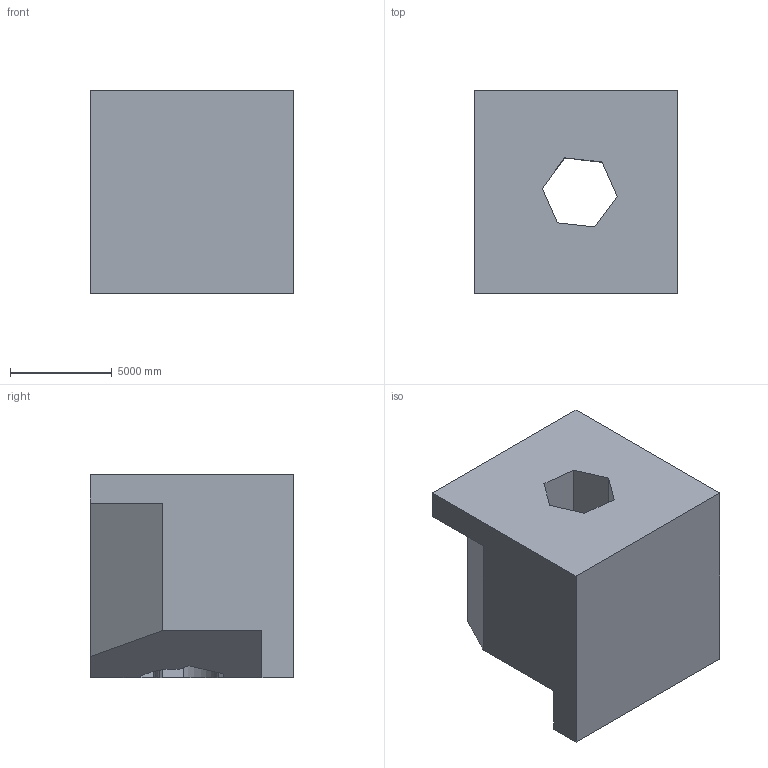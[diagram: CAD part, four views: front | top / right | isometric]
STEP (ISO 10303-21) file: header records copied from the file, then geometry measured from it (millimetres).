
FILE_DESCRIPTION (( 'STEP AP203' ), '1' );
FILE_NAME ('302.STEP', '2022-07-28T14:15:57', ( 'user' ), ( '' ), 'SwSTEP 2.0', 'SolidWorks 2021', '' );
FILE_SCHEMA (( 'CONFIG_CONTROL_DESIGN' ));
Length unit declared in the file: centimetre
Products named in the file (1): 302
Bounding box: 10000 x 10000 x 10000 mm (x, y, z)
Volume: 801897279971.5 mm3; surface area: 708609868.1 mm2
Topology: 1 solids, 1 shells, 22 faces, 63 edges, 42 vertices
Faces by surface type: plane 18, cylinder 4
Entity records: 795 total; most frequent: CARTESIAN_POINT 134, ORIENTED_EDGE 126, DIRECTION 114, EDGE_CURVE 63, VECTOR 54, LINE 54, VERTEX_POINT 42, AXIS2_PLACEMENT_3D 30
